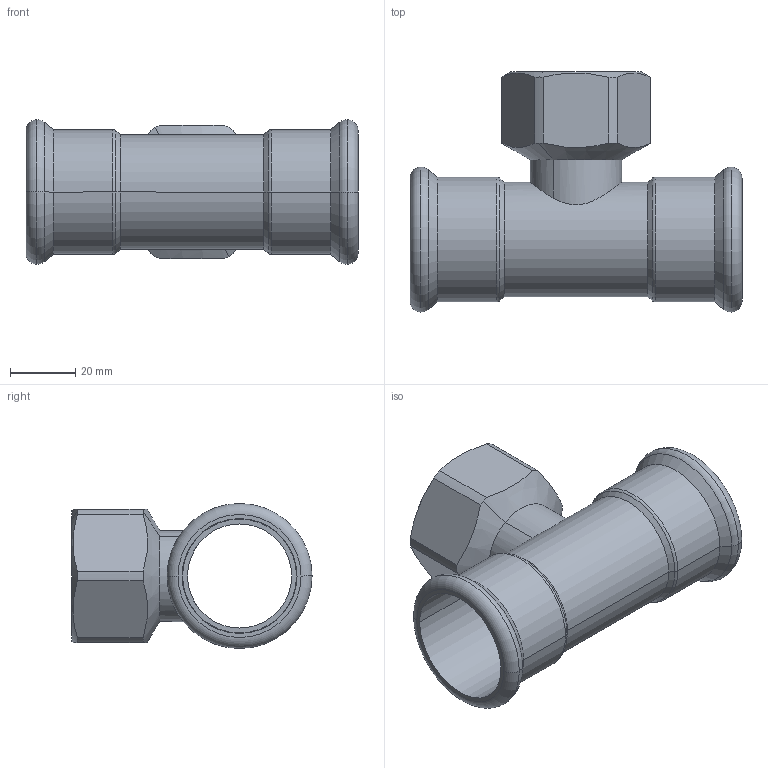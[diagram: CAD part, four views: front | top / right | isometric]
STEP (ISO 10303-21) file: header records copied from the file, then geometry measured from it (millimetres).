
FILE_DESCRIPTION(('CoCreate Modeling STEP Export'),'2;1');
FILE_NAME('C1418 35xRp1x35.stp','2014-11-12T13:39:45',(''),(''),'CoCreate Modeling STEP processor for AP214 (Solid Model)','CoCreate Modeling 17.00A 17-Jun-2010 (C) Parametric Technology GmbH','');
FILE_SCHEMA(('AUTOMOTIVE_DESIGN { 1 0 10303 214 1 1 1 1 }'));
Length unit declared in the file: millimetre
Products named in the file (2): C1418_35xRp1x35
Assembly tree (1 placements, depth 2):
  C1418_35xRp1x35
    C1418_35xRp1x35
Bounding box: 102 x 73.78 x 44.55 mm (x, y, z)
Volume: 37670.2 mm3; surface area: 32866.2 mm2
Topology: 1 solids, 1 shells, 66 faces, 154 edges, 94 vertices
Faces by surface type: cylinder 28, plane 14, torus 12, cone 12
Entity records: 3736 total; most frequent: CARTESIAN_POINT 2359, ORIENTED_EDGE 308, DIRECTION 240, EDGE_CURVE 154, AXIS2_PLACEMENT_3D 97, VERTEX_POINT 94, EDGE_LOOP 74, FACE_OUTER_BOUND 66
